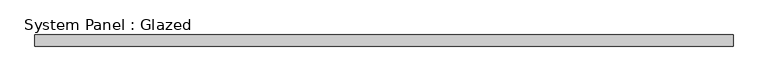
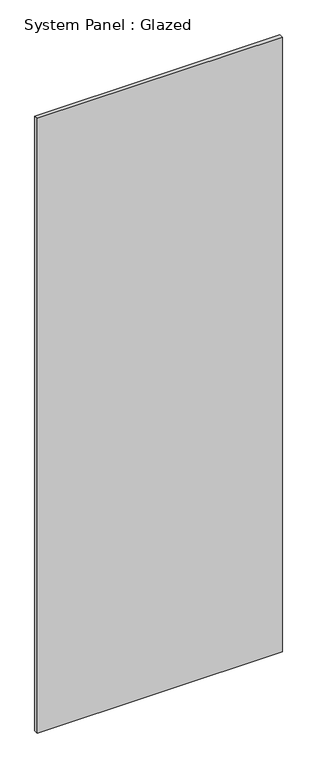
"""IFC4 building model written with IfcOpenShell, lengths in millimetres: plate geometry, System Panel : Glazed."""

import ifcopenshell
import ifcopenshell.guid

model = None  # the IFC model being written
_history = None  # IfcOwnerHistory: only IFC2X3 demands one
_inside = {}  # id of a spatial element -> (the spatial element, [elements in it])
_under = {}  # id of a project, library or spatial element -> (it, [spatial elements below it])
_declared = {}  # id of a project -> (the project, [libraries it declares])
_typed = {}  # id of a type object -> (the type object, [elements of that type])
_made_of = {}  # id of a material, layer set ... -> (it, [elements and type objects made of it])


def new_model(schema):
    """Start an empty IFC model of exactly this schema.

    Asked for "IFC4X3", IfcOpenShell would pick the latest addendum, in which some entities
    have other attributes; the version numbers below select the first issue.
    IFC2X3 requires an IfcOwnerHistory on every rooted entity: one is made here for all.
    """
    global model, _history
    if schema == "IFC4X3":
        model = ifcopenshell.file(schema_version=(4, 3, 0, 0))
    else:
        model = ifcopenshell.file(schema=schema)
    _inside.clear()
    _under.clear()
    _declared.clear()
    _typed.clear()
    _made_of.clear()
    _history = None
    if model.schema == "IFC2X3":
        org = make("IfcOrganization", Name="unknown")
        user = make(
            "IfcPersonAndOrganization",
            ThePerson=make("IfcPerson", FamilyName="unknown"),
            TheOrganization=org,
        )
        app = make(
            "IfcApplication",
            ApplicationDeveloper=org,
            Version="unknown",
            ApplicationFullName="unknown",
            ApplicationIdentifier="unknown",
        )
        _history = make(
            "IfcOwnerHistory",
            OwningUser=user,
            OwningApplication=app,
            ChangeAction="ADDED",
            CreationDate=0,
        )
    return model


def make(cls, **values):
    """One entity of the class cls with the attributes given. An attribute that is None is left unset."""
    return model.create_entity(
        cls, **{name: value for name, value in values.items() if value is not None}
    )


def rooted(cls, **values):
    """An entity with a GlobalId (a new one), such as an element, a storey or a relation."""
    return make(cls, GlobalId=ifcopenshell.guid.new(), OwnerHistory=_history, **values)


def si_unit(unit_type, name, prefix=None):
    """IfcSIUnit, for example si_unit("LENGTHUNIT", "METRE", prefix="MILLI")."""
    return make("IfcSIUnit", UnitType=unit_type, Prefix=prefix, Name=name)


def assignment(units):
    """IfcUnitAssignment: the units of a project."""
    return None if units is None else make("IfcUnitAssignment", Units=units)


def point(xyz):
    """IfcCartesianPoint."""
    return None if xyz is None else make("IfcCartesianPoint", Coordinates=xyz)


def direction(xyz):
    """IfcDirection."""
    return None if xyz is None else make("IfcDirection", DirectionRatios=xyz)


def frame(location, z_axis=None, x_axis=None):
    """IfcAxis2Placement3D, a coordinate frame: its origin and axes. An axis left out is left unset."""
    return make(
        "IfcAxis2Placement3D",
        Location=point(location),
        Axis=direction(z_axis),
        RefDirection=direction(x_axis),
    )


def origin():
    """The frame at (0, 0, 0) with its axes left unset."""
    return frame((0.0, 0.0, 0.0))


def origin_with_axes():
    """The frame at (0, 0, 0) with the z axis (0, 0, 1) and the x axis (1, 0, 0) written out."""
    return frame((0.0, 0.0, 0.0), z_axis=(0.0, 0.0, 1.0), x_axis=(1.0, 0.0, 0.0))


def place(relative_to, where):
    """IfcLocalPlacement: puts the frame where relative to a parent placement (None: the world)."""
    return make(
        "IfcLocalPlacement", PlacementRelTo=relative_to, RelativePlacement=where
    )


def context(
    kind, dimensions, precision=None, world=None, true_north=None, identifier=None
):
    """IfcGeometricRepresentationContext, for example the 3D "Model" context."""
    return make(
        "IfcGeometricRepresentationContext",
        ContextIdentifier=identifier,
        ContextType=kind,
        CoordinateSpaceDimension=dimensions,
        Precision=precision,
        WorldCoordinateSystem=world,
        TrueNorth=true_north,
    )


def project(units=None, contexts=None):
    """IfcProject with its units and contexts."""
    return rooted(
        "IfcProject",
        Name="project",
        RepresentationContexts=contexts,
        UnitsInContext=assignment(units),
    )


def spatial(cls, under=None, at=None, **own):
    """A site, building, storey or space (cls), placed at a placement, below another one or the project."""
    s = rooted(cls, ObjectPlacement=at, **own)
    if under is not None:
        _under.setdefault(under.id(), (under, []))[1].append(s)
    return s


def polyline(points):
    """IfcPolyline through the points."""
    return make("IfcPolyline", Points=[point(p) for p in points])


def outline(outer, holes=None, kind="AREA"):
    """IfcArbitraryClosedProfileDef: a profile drawn as a closed curve; with holes, ...WithVoids."""
    if holes is None:
        return make("IfcArbitraryClosedProfileDef", ProfileType=kind, OuterCurve=outer)
    return make(
        "IfcArbitraryProfileDefWithVoids",
        ProfileType=kind,
        OuterCurve=outer,
        InnerCurves=holes,
    )


def extrude(swept, where, along, depth):
    """IfcExtrudedAreaSolid: the profile swept, set in the frame where, extruded along a direction by depth."""
    return make(
        "IfcExtrudedAreaSolid",
        SweptArea=swept,
        Position=where,
        ExtrudedDirection=direction(along),
        Depth=depth,
    )


def shape(context_of_items, identifier, shape_type, items):
    """IfcShapeRepresentation: the items that make up one representation, for example the "Body"."""
    return make(
        "IfcShapeRepresentation",
        ContextOfItems=context_of_items,
        RepresentationIdentifier=identifier,
        RepresentationType=shape_type,
        Items=items,
    )


def source(mapping_origin, context_of_items, identifier, shape_type, items):
    """IfcRepresentationMap: a shape defined once, which mapped items show again and again."""
    return make(
        "IfcRepresentationMap",
        MappingOrigin=mapping_origin,
        MappedRepresentation=shape(context_of_items, identifier, shape_type, items),
    )


def transform(
    local_origin,
    x_axis=None,
    y_axis=None,
    z_axis=None,
    scale=None,
    scale2=None,
    scale3=None,
    uniform=True,
):
    """IfcCartesianTransformationOperator3D, or its non-uniform kind. x_axis, y_axis, z_axis: its Axis1, 2, 3."""
    if uniform:
        return make(
            "IfcCartesianTransformationOperator3D",
            Axis1=direction(x_axis),
            Axis2=direction(y_axis),
            LocalOrigin=point(local_origin),
            Scale=scale,
            Axis3=direction(z_axis),
        )
    return make(
        "IfcCartesianTransformationOperator3DnonUniform",
        Axis1=direction(x_axis),
        Axis2=direction(y_axis),
        LocalOrigin=point(local_origin),
        Scale=scale,
        Axis3=direction(z_axis),
        Scale2=scale2,
        Scale3=scale3,
    )


def mapped(mapping_source, mapping_target):
    """IfcMappedItem: shows the shape of a source again, moved by a transform."""
    return make(
        "IfcMappedItem", MappingSource=mapping_source, MappingTarget=mapping_target
    )


def made_of(thing, what):
    """Note that an element or type object is made of a material, layer set ...; save() writes the relation."""
    if what is not None:
        _made_of.setdefault(what.id(), (what, []))[1].append(thing)
    return thing


def element(
    cls,
    number,
    at=None,
    inside=None,
    cuts=None,
    type_object=None,
    material=None,
    context=None,
    identifier="Body",
    shape_type=None,
    held_by="IfcProductDefinitionShape",
    body=None,
    shapes=None,
    **own,
):
    """One element of the class cls, such as IfcWall. Its Tag is "e" and its number.

    at: its placement. inside: the storey or other place that contains it. cuts: it is an
    opening in that element (IfcRelVoidsElement). A single representation is given by context,
    identifier, shape_type and body (its items); several are given by shapes. held_by: the class
    of the entity that holds the representations. save() writes the other relations.
    """
    e = rooted(cls, Tag="e%d" % number, ObjectPlacement=at, **own)
    if body is not None:
        shapes = [shape(context, identifier, shape_type, body)]
    if shapes is not None:
        e.Representation = make(held_by, Representations=shapes)
    if inside is not None:
        _inside.setdefault(inside.id(), (inside, []))[1].append(e)
    if cuts is not None:
        rooted(
            "IfcRelVoidsElement", RelatingBuildingElement=cuts, RelatedOpeningElement=e
        )
    if type_object is not None:
        _typed.setdefault(type_object.id(), (type_object, []))[1].append(e)
    return made_of(e, material)


def aggregate(whole, parts):
    """IfcRelAggregates: a whole, such as a stair, and the parts it consists of."""
    return rooted("IfcRelAggregates", RelatingObject=whole, RelatedObjects=parts)


def save(model, path):
    """Write the relations noted so far, then the file.

    IfcRelAggregates (storeys below a building ...), IfcRelContainedInSpatialStructure (elements
    in a storey), IfcRelDefinesByType, IfcRelAssociatesMaterial and IfcRelDeclares: one each for
    every whole, place, type object, material and project.
    """
    for whole, parts in _under.values():
        aggregate(whole, parts)
    for where, things in _inside.values():
        rooted(
            "IfcRelContainedInSpatialStructure",
            RelatedElements=things,
            RelatingStructure=where,
        )
    for kind, things in _typed.values():
        rooted("IfcRelDefinesByType", RelatedObjects=things, RelatingType=kind)
    for what, things in _made_of.values():
        rooted("IfcRelAssociatesMaterial", RelatedObjects=things, RelatingMaterial=what)
    for by, libraries in _declared.values():
        rooted("IfcRelDeclares", RelatingContext=by, RelatedDefinitions=libraries)
    model.write(path)


def system_panel_glazed_a3265fea(model_context):
    return source(origin(), model_context, "Body", "SweptSolid", [
        extrude(outline(polyline([(754.9999998, 24.5), (-754.9999998, 24.5), (-754.9999998, 49.5), (754.9999998, 49.5), (754.9999998, 24.5)])), origin_with_axes(), (0.0, 0.0, 1.0), 4000.0),
    ])


if __name__ == "__main__":
    model = new_model("IFC4")
    model_context = context("Model", 3, world=origin())
    ifc_project = project(units=[si_unit("LENGTHUNIT", "METRE", prefix="MILLI")], contexts=[model_context])
    site = spatial("IfcSite", under=ifc_project)
    building = spatial("IfcBuilding", under=site)
    placement = place(None, origin())
    system_panel_glazed_shape = system_panel_glazed_a3265fea(model_context)
    element("IfcPlate", 1, ObjectType="System Panel : Glazed", at=placement, inside=building, context=model_context, shape_type="MappedRepresentation", body=[
        mapped(system_panel_glazed_shape, transform((0.0, 0.0, 0.0), x_axis=(1.0, 0.0, 0.0), y_axis=(0.0, 1.0, 0.0), z_axis=(0.0, 0.0, 1.0))),
    ])
    save(model, "model.ifc")
